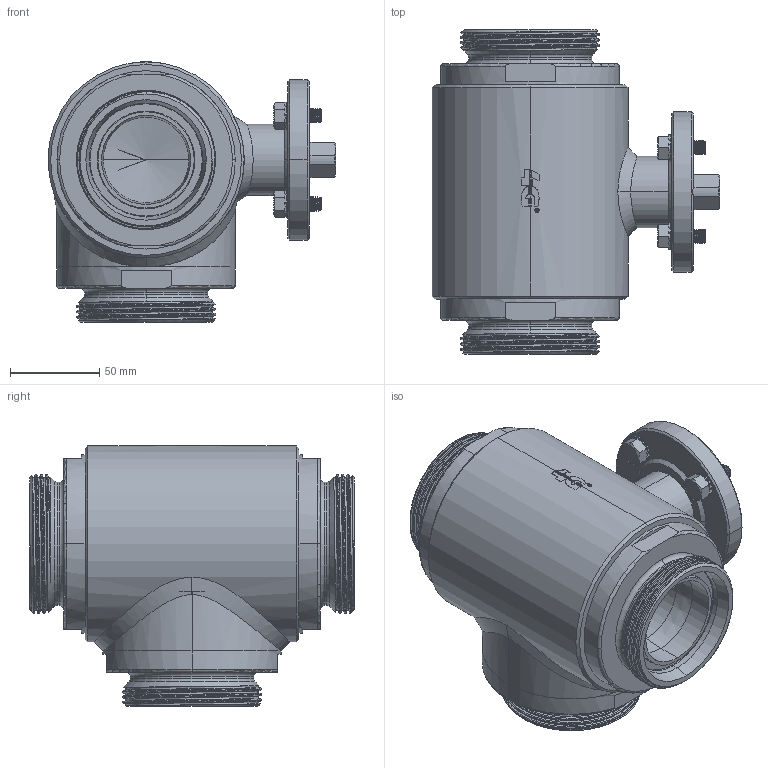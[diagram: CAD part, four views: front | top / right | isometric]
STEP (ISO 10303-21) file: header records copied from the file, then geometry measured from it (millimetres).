
FILE_DESCRIPTION((''),'2;1');
FILE_NAME('31302563810','2015-05-05T',('uff_tec'),('CDM Tecnoconsulting'),'PRO/ENGINEER BY PARAMETRIC TECHNOLOGY CORPORATION, 2010280','PRO/ENGINEER BY PARAMETRIC TECHNOLOGY CORPORATION, 2010280','');
FILE_SCHEMA(('CONFIG_CONTROL_DESIGN','SHAPE_APPEARANCE_LAYERS_GROUPS'));
Products named in the file (1): 31302563810
Bounding box: 161.5 x 182 x 146 mm (x, y, z)
Surface area: 192150.2 mm2 (no closed solid volume)
Topology: 0 solids, 35 shells, 911 faces, 3168 edges, 2225 vertices
Faces by surface type: cylinder 331, plane 293, cone 152, bspline 76, torus 46, extrusion 11, sphere 2
Entity records: 62381 total; most frequent: CARTESIAN_POINT 37558, ORIENTED_EDGE 5250, DIRECTION 4317, EDGE_CURVE 3162, VERTEX_POINT 2225, AXIS2_PLACEMENT_3D 1663, B_SPLINE_CURVE_WITH_KNOTS 1354, VECTOR 991
